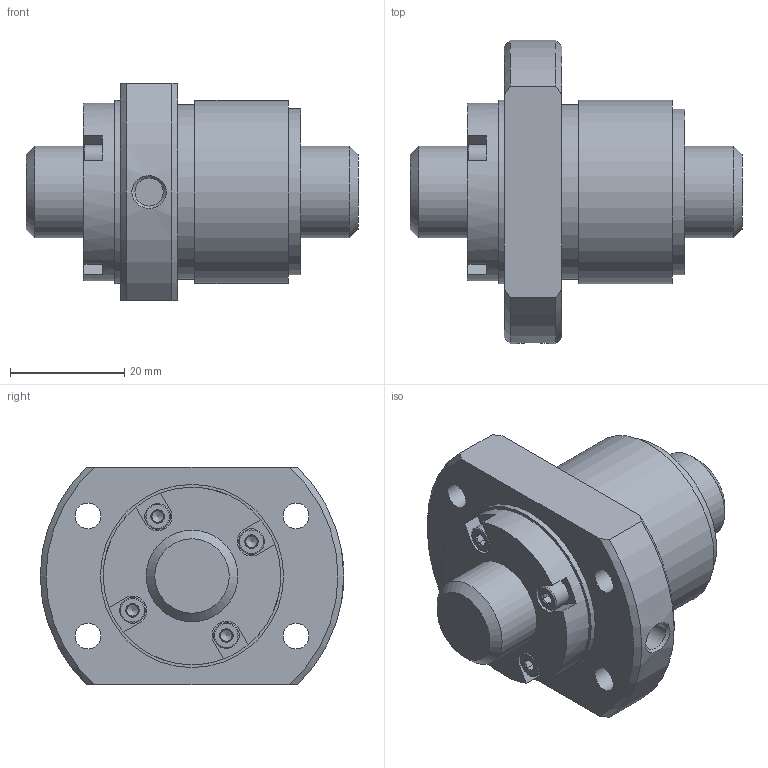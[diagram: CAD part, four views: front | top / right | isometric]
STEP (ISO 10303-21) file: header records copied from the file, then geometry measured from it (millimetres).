
FILE_DESCRIPTION(/* description */ ('STEP AP203'),/* implementation_level */ '2;1');
FILE_NAME(/* name */ 'BLK1616-3.6G1+58LC3_N0_1300',/* time_stamp */ '2025-01-16T07:04:38+01:00',/* author */ ('License CC BY-ND 4.0'),/* organization */ ('CADENAS'),/* preprocessor_version */ 'ST-DEVELOPER v19.3',/* originating_system */ 'PARTsolutions',/* authorisation */ ' ');
FILE_SCHEMA (('CONFIG_CONTROL_DESIGN'));
Length unit declared in the file: millimetre
Products named in the file (3): BLK1616-3.6G1+58LC3_N0_1300; N0130BLK1616-3.60Shaft; NRR0130BLK1616-3.6Nut
Assembly tree (2 placements, depth 2):
  BLK1616-3.6G1+58LC3_N0_1300
    N0130BLK1616-3.60Shaft
    NRR0130BLK1616-3.6Nut
Bounding box: 58 x 53 x 38 mm (x, y, z)
Volume: 42610.5 mm3; surface area: 13860.1 mm2
Topology: 2 solids, 2 shells, 121 faces, 287 edges, 180 vertices
Faces by surface type: plane 76, cylinder 26, cone 15, torus 4
Full cylindrical faces by diameter (mm): 2 x4, 4.5 x8, 4.917 x1, 16 x2, 29 x1, 30.4 x1, 31 x1, 32 x2
Entity records: 3336 total; most frequent: CARTESIAN_POINT 662, DIRECTION 546, ORIENTED_EDGE 476, EDGE_CURVE 238, AXIS2_PLACEMENT_3D 217, FACE_BOUND 180, EDGE_LOOP 176, VERTEX_POINT 170
